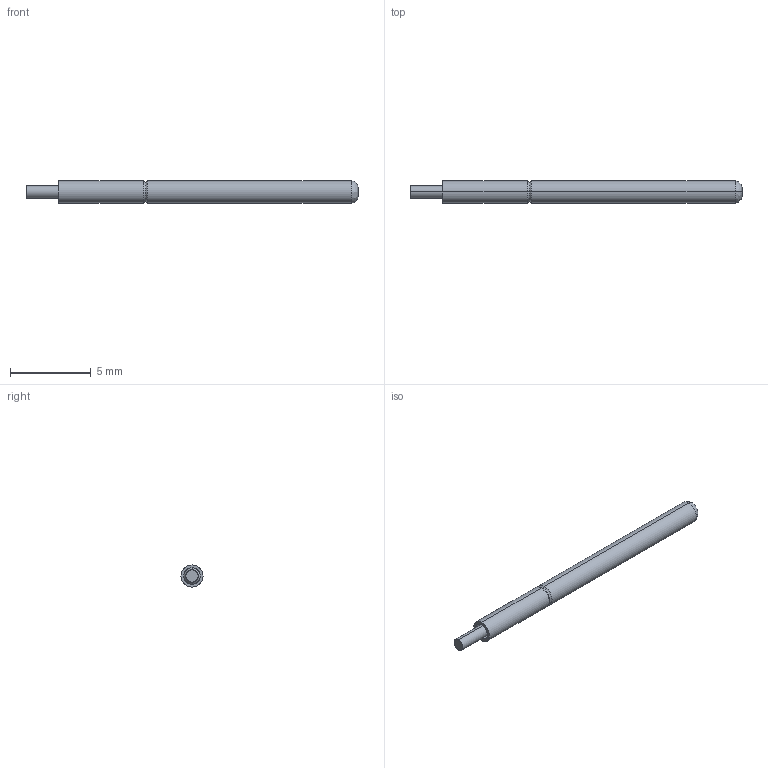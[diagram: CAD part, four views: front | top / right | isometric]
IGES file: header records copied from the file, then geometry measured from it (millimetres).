
Start section: SolidWorks IGES file using analytic representation for surfaces
Global section: file name: Z:\probe solid model mockups\Solidworks models\IGES Files\EPA-2\EPA-2C30 Full.IGS; native system: SolidWorks 2006 by SolidWorks Corporation; preprocessor: SolidWorks 2006 by SolidWorks Corporation; author: tsakatani; date: 071220.161453; units: inch
Bounding box: 20.57 x 1.37 x 1.37 mm (x, y, z)
Surface area: 93.9 mm2 (no closed solid volume)
Topology: 0 solids, 0 shells, 19 faces, 128 edges, 128 vertices
Faces by surface type: revolution 10, bspline 9
